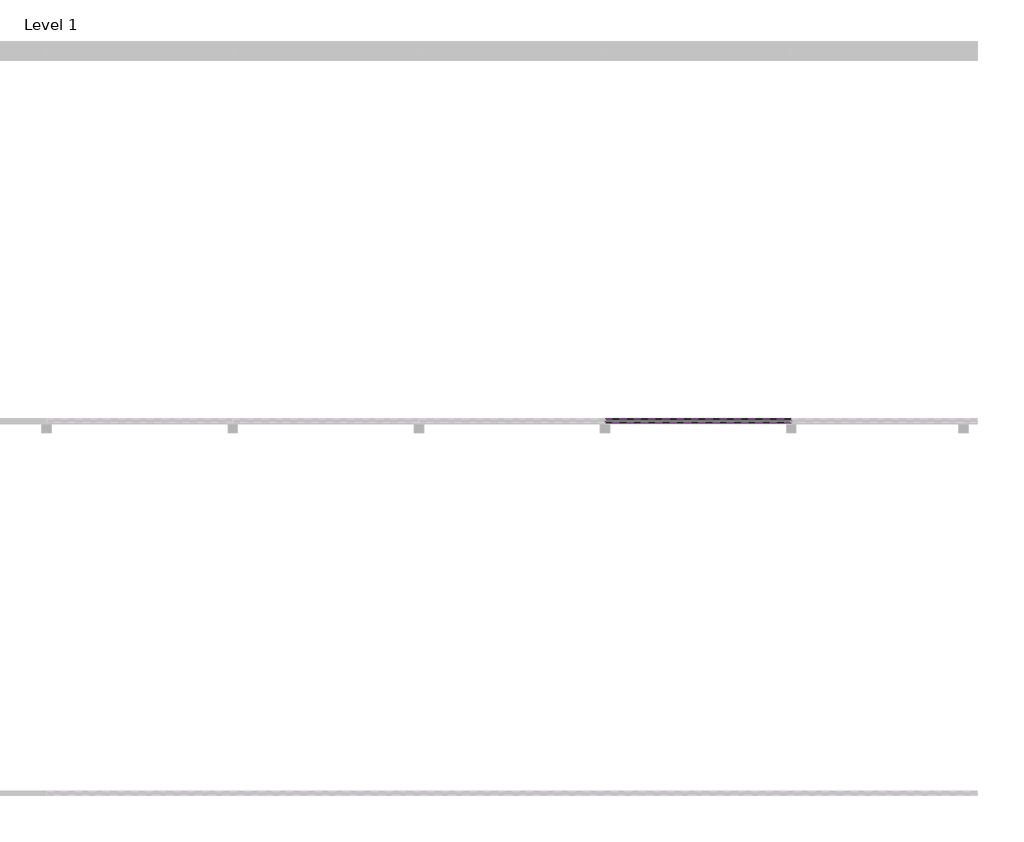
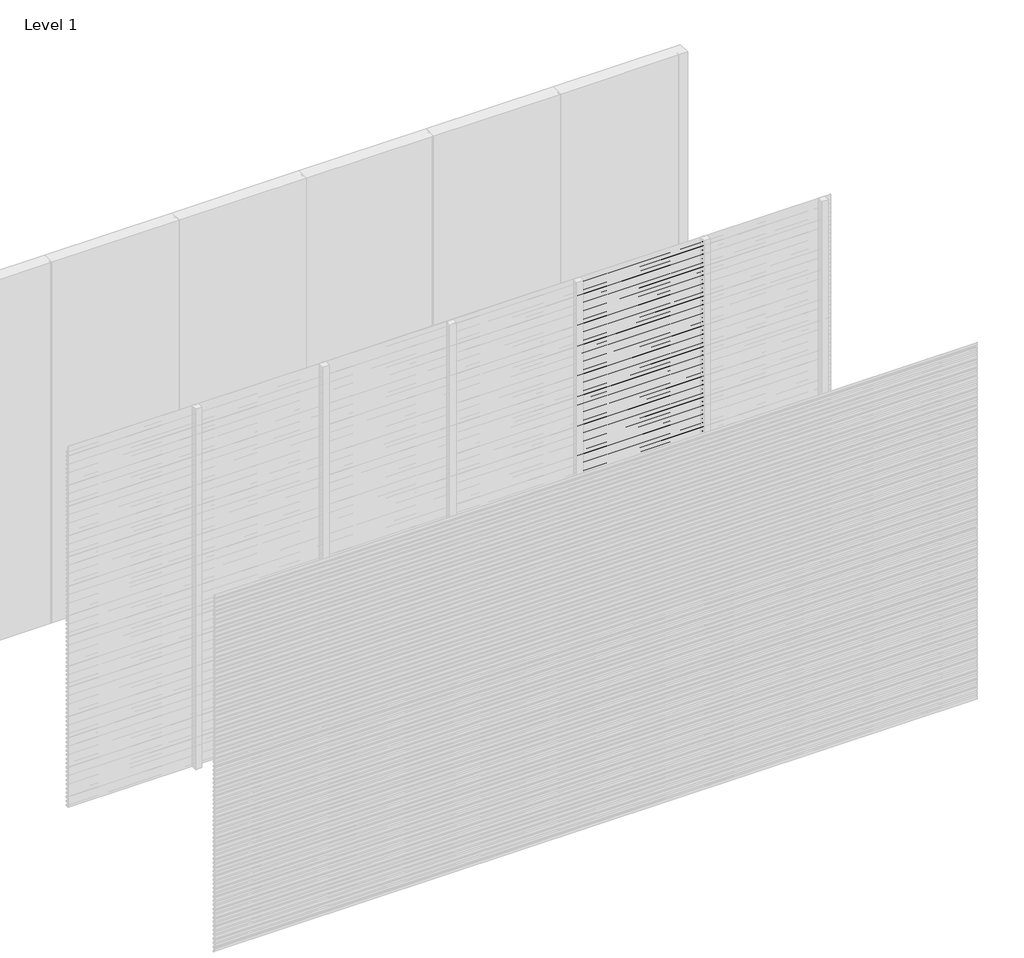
# One storey, part 12 of 25: 98 proxies.
"""IFC4 building model written with IfcOpenShell, lengths in millimetres."""

from ifc_helpers import new_model, si_unit, frame, origin, place, context, project, spatial, polyline, outline, extrude, element, save

model = new_model("IFC4")

# Units and contexts
model_context = context("Model", 3, world=origin())
ifc_project = project(units=[si_unit("LENGTHUNIT", "METRE", prefix="MILLI")], contexts=[model_context])

# Site, building, storey
site = spatial("IfcSite", under=ifc_project)
building = spatial("IfcBuilding", under=site)
storey = spatial("IfcBuildingStorey", under=building, Name="Level 1", Elevation=0.0)

# Proxies
placement = place(None, origin())
element("IfcBuildingElementProxy", 1, Name="Wall Sweeps", at=placement, inside=storey, context=model_context, shape_type="SweptSolid", body=[
    extrude(outline(polyline([(-11995.0, 1120.0), (-11995.0, 1108.942893), (-11976.0, 1093.0), (-11976.0, 1080.0), (-11997.0, 1097.6210923), (-11997.0, 1120.0), (-11995.0, 1120.0)])), frame((3000.0, 0.0, 0.0), z_axis=(1.0, 0.0, 0.0), x_axis=(0.0, 1.0, 0.0)), (0.0, 0.0, 1.0), 1000.0),
])
element("IfcBuildingElementProxy", 2, Name="Wall Sweeps", at=placement, inside=storey, context=model_context, shape_type="SweptSolid", body=[
    extrude(outline(polyline([(-11995.0, 1085.0), (-11995.0, 1073.942893), (-11976.0, 1058.0), (-11976.0, 1045.0), (-11997.0, 1062.6210923), (-11997.0, 1085.0), (-11995.0, 1085.0)])), frame((3000.0, 0.0, 0.0), z_axis=(1.0, 0.0, 0.0), x_axis=(0.0, 1.0, 0.0)), (0.0, 0.0, 1.0), 1000.0),
])
element("IfcBuildingElementProxy", 3, Name="Wall Sweeps", at=placement, inside=storey, context=model_context, shape_type="SweptSolid", body=[
    extrude(outline(polyline([(-11995.0, 1050.0), (-11995.0, 1038.942893), (-11976.0, 1023.0), (-11976.0, 1010.0), (-11997.0, 1027.6210923), (-11997.0, 1050.0), (-11995.0, 1050.0)])), frame((3000.0, 0.0, 0.0), z_axis=(1.0, 0.0, 0.0), x_axis=(0.0, 1.0, 0.0)), (0.0, 0.0, 1.0), 1000.0),
])
element("IfcBuildingElementProxy", 4, Name="Wall Sweeps", at=placement, inside=storey, context=model_context, shape_type="SweptSolid", body=[
    extrude(outline(polyline([(-11995.0, 1015.0), (-11995.0, 1003.942893), (-11976.0, 988.0), (-11976.0, 975.0), (-11997.0, 992.6210923), (-11997.0, 1015.0), (-11995.0, 1015.0)])), frame((3000.0, 0.0, 0.0), z_axis=(1.0, 0.0, 0.0), x_axis=(0.0, 1.0, 0.0)), (0.0, 0.0, 1.0), 1000.0),
])
element("IfcBuildingElementProxy", 5, Name="Wall Sweeps", at=placement, inside=storey, context=model_context, shape_type="SweptSolid", body=[
    extrude(outline(polyline([(-11995.0, 980.0), (-11995.0, 968.942893), (-11976.0, 953.0), (-11976.0, 940.0), (-11997.0, 957.6210923), (-11997.0, 980.0), (-11995.0, 980.0)])), frame((3000.0, 0.0, 0.0), z_axis=(1.0, 0.0, 0.0), x_axis=(0.0, 1.0, 0.0)), (0.0, 0.0, 1.0), 1000.0),
])
element("IfcBuildingElementProxy", 6, Name="Wall Sweeps", at=placement, inside=storey, context=model_context, shape_type="SweptSolid", body=[
    extrude(outline(polyline([(-11995.0, 945.0), (-11995.0, 933.942893), (-11976.0, 918.0), (-11976.0, 905.0), (-11997.0, 922.6210923), (-11997.0, 945.0), (-11995.0, 945.0)])), frame((3000.0, 0.0, 0.0), z_axis=(1.0, 0.0, 0.0), x_axis=(0.0, 1.0, 0.0)), (0.0, 0.0, 1.0), 1000.0),
])
element("IfcBuildingElementProxy", 7, Name="Wall Sweeps", at=placement, inside=storey, context=model_context, shape_type="SweptSolid", body=[
    extrude(outline(polyline([(-11995.0, 910.0), (-11995.0, 898.942893), (-11976.0, 883.0), (-11976.0, 870.0), (-11997.0, 887.6210923), (-11997.0, 910.0), (-11995.0, 910.0)])), frame((3000.0, 0.0, 0.0), z_axis=(1.0, 0.0, 0.0), x_axis=(0.0, 1.0, 0.0)), (0.0, 0.0, 1.0), 1000.0),
])
element("IfcBuildingElementProxy", 8, Name="Wall Sweeps", at=placement, inside=storey, context=model_context, shape_type="SweptSolid", body=[
    extrude(outline(polyline([(-11995.0, 875.0), (-11995.0, 863.942893), (-11976.0, 848.0), (-11976.0, 835.0), (-11997.0, 852.6210923), (-11997.0, 875.0), (-11995.0, 875.0)])), frame((3000.0, 0.0, 0.0), z_axis=(1.0, 0.0, 0.0), x_axis=(0.0, 1.0, 0.0)), (0.0, 0.0, 1.0), 1000.0),
])
element("IfcBuildingElementProxy", 9, Name="Wall Sweeps", at=placement, inside=storey, context=model_context, shape_type="SweptSolid", body=[
    extrude(outline(polyline([(-11995.0, 840.0), (-11995.0, 828.942893), (-11976.0, 813.0), (-11976.0, 800.0), (-11997.0, 817.6210923), (-11997.0, 840.0), (-11995.0, 840.0)])), frame((3000.0, 0.0, 0.0), z_axis=(1.0, 0.0, 0.0), x_axis=(0.0, 1.0, 0.0)), (0.0, 0.0, 1.0), 1000.0),
])
element("IfcBuildingElementProxy", 10, Name="Wall Sweeps", at=placement, inside=storey, context=model_context, shape_type="SweptSolid", body=[
    extrude(outline(polyline([(-11995.0, 805.0), (-11995.0, 793.942893), (-11976.0, 778.0), (-11976.0, 765.0), (-11997.0, 782.6210923), (-11997.0, 805.0), (-11995.0, 805.0)])), frame((3000.0, 0.0, 0.0), z_axis=(1.0, 0.0, 0.0), x_axis=(0.0, 1.0, 0.0)), (0.0, 0.0, 1.0), 1000.0),
])
element("IfcBuildingElementProxy", 11, Name="Wall Sweeps", at=placement, inside=storey, context=model_context, shape_type="SweptSolid", body=[
    extrude(outline(polyline([(-11995.0, 770.0), (-11995.0, 758.942893), (-11976.0, 743.0), (-11976.0, 730.0), (-11997.0, 747.6210923), (-11997.0, 770.0), (-11995.0, 770.0)])), frame((3000.0, 0.0, 0.0), z_axis=(1.0, 0.0, 0.0), x_axis=(0.0, 1.0, 0.0)), (0.0, 0.0, 1.0), 1000.0),
])
element("IfcBuildingElementProxy", 12, Name="Wall Sweeps", at=placement, inside=storey, context=model_context, shape_type="SweptSolid", body=[
    extrude(outline(polyline([(-11995.0, 735.0), (-11995.0, 723.942893), (-11976.0, 708.0), (-11976.0, 695.0), (-11997.0, 712.6210923), (-11997.0, 735.0), (-11995.0, 735.0)])), frame((3000.0, 0.0, 0.0), z_axis=(1.0, 0.0, 0.0), x_axis=(0.0, 1.0, 0.0)), (0.0, 0.0, 1.0), 1000.0),
])
element("IfcBuildingElementProxy", 13, Name="Wall Sweeps", at=placement, inside=storey, context=model_context, shape_type="SweptSolid", body=[
    extrude(outline(polyline([(-11995.0, 700.0), (-11995.0, 688.942893), (-11976.0, 673.0), (-11976.0, 660.0), (-11997.0, 677.6210923), (-11997.0, 700.0), (-11995.0, 700.0)])), frame((3000.0, 0.0, 0.0), z_axis=(1.0, 0.0, 0.0), x_axis=(0.0, 1.0, 0.0)), (0.0, 0.0, 1.0), 1000.0),
])
element("IfcBuildingElementProxy", 14, Name="Wall Sweeps", at=placement, inside=storey, context=model_context, shape_type="SweptSolid", body=[
    extrude(outline(polyline([(-11995.0, 665.0), (-11995.0, 653.942893), (-11976.0, 638.0), (-11976.0, 625.0), (-11997.0, 642.6210923), (-11997.0, 665.0), (-11995.0, 665.0)])), frame((3000.0, 0.0, 0.0), z_axis=(1.0, 0.0, 0.0), x_axis=(0.0, 1.0, 0.0)), (0.0, 0.0, 1.0), 1000.0),
])
element("IfcBuildingElementProxy", 15, Name="Wall Sweeps", at=placement, inside=storey, context=model_context, shape_type="SweptSolid", body=[
    extrude(outline(polyline([(-11995.0, 630.0), (-11995.0, 618.942893), (-11976.0, 603.0), (-11976.0, 590.0), (-11997.0, 607.6210923), (-11997.0, 630.0), (-11995.0, 630.0)])), frame((3000.0, 0.0, 0.0), z_axis=(1.0, 0.0, 0.0), x_axis=(0.0, 1.0, 0.0)), (0.0, 0.0, 1.0), 1000.0),
])
element("IfcBuildingElementProxy", 16, Name="Wall Sweeps", at=placement, inside=storey, context=model_context, shape_type="SweptSolid", body=[
    extrude(outline(polyline([(-11995.0, 595.0), (-11995.0, 583.942893), (-11976.0, 568.0), (-11976.0, 555.0), (-11997.0, 572.6210923), (-11997.0, 595.0), (-11995.0, 595.0)])), frame((3000.0, 0.0, 0.0), z_axis=(1.0, 0.0, 0.0), x_axis=(0.0, 1.0, 0.0)), (0.0, 0.0, 1.0), 1000.0),
])
element("IfcBuildingElementProxy", 17, Name="Wall Sweeps", at=placement, inside=storey, context=model_context, shape_type="SweptSolid", body=[
    extrude(outline(polyline([(-11995.0, 560.0), (-11995.0, 548.942893), (-11976.0, 533.0), (-11976.0, 520.0), (-11997.0, 537.6210923), (-11997.0, 560.0), (-11995.0, 560.0)])), frame((3000.0, 0.0, 0.0), z_axis=(1.0, 0.0, 0.0), x_axis=(0.0, 1.0, 0.0)), (0.0, 0.0, 1.0), 1000.0),
])
element("IfcBuildingElementProxy", 18, Name="Wall Sweeps", at=placement, inside=storey, context=model_context, shape_type="SweptSolid", body=[
    extrude(outline(polyline([(-11995.0, 525.0), (-11995.0, 513.942893), (-11976.0, 498.0), (-11976.0, 485.0), (-11997.0, 502.6210923), (-11997.0, 525.0), (-11995.0, 525.0)])), frame((3000.0, 0.0, 0.0), z_axis=(1.0, 0.0, 0.0), x_axis=(0.0, 1.0, 0.0)), (0.0, 0.0, 1.0), 1000.0),
])
element("IfcBuildingElementProxy", 19, Name="Wall Sweeps", at=placement, inside=storey, context=model_context, shape_type="SweptSolid", body=[
    extrude(outline(polyline([(-11995.0, 490.0), (-11995.0, 478.942893), (-11976.0, 463.0), (-11976.0, 450.0), (-11997.0, 467.6210923), (-11997.0, 490.0), (-11995.0, 490.0)])), frame((3000.0, 0.0, 0.0), z_axis=(1.0, 0.0, 0.0), x_axis=(0.0, 1.0, 0.0)), (0.0, 0.0, 1.0), 1000.0),
])
element("IfcBuildingElementProxy", 20, Name="Wall Sweeps", at=placement, inside=storey, context=model_context, shape_type="SweptSolid", body=[
    extrude(outline(polyline([(-11995.0, 455.0), (-11995.0, 443.942893), (-11976.0, 428.0), (-11976.0, 415.0), (-11997.0, 432.6210923), (-11997.0, 455.0), (-11995.0, 455.0)])), frame((3000.0, 0.0, 0.0), z_axis=(1.0, 0.0, 0.0), x_axis=(0.0, 1.0, 0.0)), (0.0, 0.0, 1.0), 1000.0),
])
element("IfcBuildingElementProxy", 21, Name="Wall Sweeps", at=placement, inside=storey, context=model_context, shape_type="SweptSolid", body=[
    extrude(outline(polyline([(-11995.0, 420.0), (-11995.0, 408.942893), (-11976.0, 393.0), (-11976.0, 380.0), (-11997.0, 397.6210923), (-11997.0, 420.0), (-11995.0, 420.0)])), frame((3000.0, 0.0, 0.0), z_axis=(1.0, 0.0, 0.0), x_axis=(0.0, 1.0, 0.0)), (0.0, 0.0, 1.0), 1000.0),
])
element("IfcBuildingElementProxy", 22, Name="Wall Sweeps", at=placement, inside=storey, context=model_context, shape_type="SweptSolid", body=[
    extrude(outline(polyline([(-11995.0, 385.0), (-11995.0, 373.942893), (-11976.0, 358.0), (-11976.0, 345.0), (-11997.0, 362.6210923), (-11997.0, 385.0), (-11995.0, 385.0)])), frame((3000.0, 0.0, 0.0), z_axis=(1.0, 0.0, 0.0), x_axis=(0.0, 1.0, 0.0)), (0.0, 0.0, 1.0), 1000.0),
])
element("IfcBuildingElementProxy", 23, Name="Wall Sweeps", at=placement, inside=storey, context=model_context, shape_type="SweptSolid", body=[
    extrude(outline(polyline([(-11995.0, 350.0), (-11995.0, 338.942893), (-11976.0, 323.0), (-11976.0, 310.0), (-11997.0, 327.6210923), (-11997.0, 350.0), (-11995.0, 350.0)])), frame((3000.0, 0.0, 0.0), z_axis=(1.0, 0.0, 0.0), x_axis=(0.0, 1.0, 0.0)), (0.0, 0.0, 1.0), 1000.0),
])
element("IfcBuildingElementProxy", 24, Name="Wall Sweeps", at=placement, inside=storey, context=model_context, shape_type="SweptSolid", body=[
    extrude(outline(polyline([(-11995.0, 315.0), (-11995.0, 303.942893), (-11976.0, 288.0), (-11976.0, 275.0), (-11997.0, 292.6210923), (-11997.0, 315.0), (-11995.0, 315.0)])), frame((3000.0, 0.0, 0.0), z_axis=(1.0, 0.0, 0.0), x_axis=(0.0, 1.0, 0.0)), (0.0, 0.0, 1.0), 1000.0),
])
element("IfcBuildingElementProxy", 25, Name="Wall Sweeps", at=placement, inside=storey, context=model_context, shape_type="SweptSolid", body=[
    extrude(outline(polyline([(-11995.0, 280.0), (-11995.0, 268.942893), (-11976.0, 253.0), (-11976.0, 240.0), (-11997.0, 257.6210923), (-11997.0, 280.0), (-11995.0, 280.0)])), frame((3000.0, 0.0, 0.0), z_axis=(1.0, 0.0, 0.0), x_axis=(0.0, 1.0, 0.0)), (0.0, 0.0, 1.0), 1000.0),
])
element("IfcBuildingElementProxy", 26, Name="Wall Sweeps", at=placement, inside=storey, context=model_context, shape_type="SweptSolid", body=[
    extrude(outline(polyline([(-11995.0, 245.0), (-11995.0, 233.942893), (-11976.0, 218.0), (-11976.0, 205.0), (-11997.0, 222.6210923), (-11997.0, 245.0), (-11995.0, 245.0)])), frame((3000.0, 0.0, 0.0), z_axis=(1.0, 0.0, 0.0), x_axis=(0.0, 1.0, 0.0)), (0.0, 0.0, 1.0), 1000.0),
])
element("IfcBuildingElementProxy", 27, Name="Wall Sweeps", at=placement, inside=storey, context=model_context, shape_type="SweptSolid", body=[
    extrude(outline(polyline([(-11995.0, 210.0), (-11995.0, 198.942893), (-11976.0, 183.0), (-11976.0, 170.0), (-11997.0, 187.6210923), (-11997.0, 210.0), (-11995.0, 210.0)])), frame((3000.0, 0.0, 0.0), z_axis=(1.0, 0.0, 0.0), x_axis=(0.0, 1.0, 0.0)), (0.0, 0.0, 1.0), 1000.0),
])
element("IfcBuildingElementProxy", 28, Name="Wall Sweeps", at=placement, inside=storey, context=model_context, shape_type="SweptSolid", body=[
    extrude(outline(polyline([(-11995.0, 175.0), (-11995.0, 163.942893), (-11976.0, 148.0), (-11976.0, 135.0), (-11997.0, 152.6210923), (-11997.0, 175.0), (-11995.0, 175.0)])), frame((3000.0, 0.0, 0.0), z_axis=(1.0, 0.0, 0.0), x_axis=(0.0, 1.0, 0.0)), (0.0, 0.0, 1.0), 1000.0),
])
element("IfcBuildingElementProxy", 29, Name="Wall Sweeps", at=placement, inside=storey, context=model_context, shape_type="SweptSolid", body=[
    extrude(outline(polyline([(-11995.0, 140.0), (-11995.0, 128.942893), (-11976.0, 113.0), (-11976.0, 100.0), (-11997.0, 117.6210923), (-11997.0, 140.0), (-11995.0, 140.0)])), frame((3000.0, 0.0, 0.0), z_axis=(1.0, 0.0, 0.0), x_axis=(0.0, 1.0, 0.0)), (0.0, 0.0, 1.0), 1000.0),
])
element("IfcBuildingElementProxy", 30, Name="Wall Sweeps", at=placement, inside=storey, context=model_context, shape_type="SweptSolid", body=[
    extrude(outline(polyline([(-11995.0, 105.0), (-11995.0, 93.942893), (-11976.0, 78.0), (-11976.0, 65.0), (-11997.0, 82.6210923), (-11997.0, 105.0), (-11995.0, 105.0)])), frame((3000.0, 0.0, 0.0), z_axis=(1.0, 0.0, 0.0), x_axis=(0.0, 1.0, 0.0)), (0.0, 0.0, 1.0), 1000.0),
])
element("IfcBuildingElementProxy", 31, Name="Wall Sweeps", at=placement, inside=storey, context=model_context, shape_type="SweptSolid", body=[
    extrude(outline(polyline([(-11995.0, 70.0), (-11995.0, 58.942893), (-11976.0, 43.0), (-11976.0, 30.0), (-11997.0, 47.6210923), (-11997.0, 70.0), (-11995.0, 70.0)])), frame((3000.0, 0.0, 0.0), z_axis=(1.0, 0.0, 0.0), x_axis=(0.0, 1.0, 0.0)), (0.0, 0.0, 1.0), 1000.0),
])
element("IfcBuildingElementProxy", 32, Name="Wall Sweeps", at=placement, inside=storey, context=model_context, shape_type="SweptSolid", body=[
    extrude(outline(polyline([(-11995.0, 35.0), (-11995.0, 23.942893), (-11976.0, 8.0), (-11976.0, -5.0), (-11997.0, 12.6210923), (-11997.0, 35.0), (-11995.0, 35.0)])), frame((3000.0, 0.0, 0.0), z_axis=(1.0, 0.0, 0.0), x_axis=(0.0, 1.0, 0.0)), (0.0, 0.0, 1.0), 1000.0),
])
element("IfcBuildingElementProxy", 33, Name="Wall Sweeps", at=placement, inside=storey, context=model_context, shape_type="SweptSolid", body=[
    extrude(outline(polyline([(-11995.0, 2975.0), (-11995.0, 2963.942893), (-11976.0, 2948.0), (-11976.0, 2935.0), (-11997.0, 2952.6210923), (-11997.0, 2975.0), (-11995.0, 2975.0)])), frame((4000.0, 0.0, 0.0), z_axis=(1.0, 0.0, 0.0), x_axis=(0.0, 1.0, 0.0)), (0.0, 0.0, 1.0), 1000.0),
])
element("IfcBuildingElementProxy", 34, Name="Wall Sweeps", at=placement, inside=storey, context=model_context, shape_type="SweptSolid", body=[
    extrude(outline(polyline([(-11995.0, 2940.0), (-11995.0, 2928.942893), (-11976.0, 2913.0), (-11976.0, 2900.0), (-11997.0, 2917.6210923), (-11997.0, 2940.0), (-11995.0, 2940.0)])), frame((4000.0, 0.0, 0.0), z_axis=(1.0, 0.0, 0.0), x_axis=(0.0, 1.0, 0.0)), (0.0, 0.0, 1.0), 1000.0),
])
element("IfcBuildingElementProxy", 35, Name="Wall Sweeps", at=placement, inside=storey, context=model_context, shape_type="SweptSolid", body=[
    extrude(outline(polyline([(-11995.0, 2905.0), (-11995.0, 2893.942893), (-11976.0, 2878.0), (-11976.0, 2865.0), (-11997.0, 2882.6210923), (-11997.0, 2905.0), (-11995.0, 2905.0)])), frame((4000.0, 0.0, 0.0), z_axis=(1.0, 0.0, 0.0), x_axis=(0.0, 1.0, 0.0)), (0.0, 0.0, 1.0), 1000.0),
])
element("IfcBuildingElementProxy", 36, Name="Wall Sweeps", at=placement, inside=storey, context=model_context, shape_type="SweptSolid", body=[
    extrude(outline(polyline([(-11995.0, 2870.0), (-11995.0, 2858.942893), (-11976.0, 2843.0), (-11976.0, 2830.0), (-11997.0, 2847.6210923), (-11997.0, 2870.0), (-11995.0, 2870.0)])), frame((4000.0, 0.0, 0.0), z_axis=(1.0, 0.0, 0.0), x_axis=(0.0, 1.0, 0.0)), (0.0, 0.0, 1.0), 1000.0),
])
element("IfcBuildingElementProxy", 37, Name="Wall Sweeps", at=placement, inside=storey, context=model_context, shape_type="SweptSolid", body=[
    extrude(outline(polyline([(-11995.0, 2835.0), (-11995.0, 2823.942893), (-11976.0, 2808.0), (-11976.0, 2795.0), (-11997.0, 2812.6210923), (-11997.0, 2835.0), (-11995.0, 2835.0)])), frame((4000.0, 0.0, 0.0), z_axis=(1.0, 0.0, 0.0), x_axis=(0.0, 1.0, 0.0)), (0.0, 0.0, 1.0), 1000.0),
])
element("IfcBuildingElementProxy", 38, Name="Wall Sweeps", at=placement, inside=storey, context=model_context, shape_type="SweptSolid", body=[
    extrude(outline(polyline([(-11995.0, 2800.0), (-11995.0, 2788.942893), (-11976.0, 2773.0), (-11976.0, 2760.0), (-11997.0, 2777.6210923), (-11997.0, 2800.0), (-11995.0, 2800.0)])), frame((4000.0, 0.0, 0.0), z_axis=(1.0, 0.0, 0.0), x_axis=(0.0, 1.0, 0.0)), (0.0, 0.0, 1.0), 1000.0),
])
element("IfcBuildingElementProxy", 39, Name="Wall Sweeps", at=placement, inside=storey, context=model_context, shape_type="SweptSolid", body=[
    extrude(outline(polyline([(-11995.0, 2765.0), (-11995.0, 2753.942893), (-11976.0, 2738.0), (-11976.0, 2725.0), (-11997.0, 2742.6210923), (-11997.0, 2765.0), (-11995.0, 2765.0)])), frame((4000.0, 0.0, 0.0), z_axis=(1.0, 0.0, 0.0), x_axis=(0.0, 1.0, 0.0)), (0.0, 0.0, 1.0), 1000.0),
])
element("IfcBuildingElementProxy", 40, Name="Wall Sweeps", at=placement, inside=storey, context=model_context, shape_type="SweptSolid", body=[
    extrude(outline(polyline([(-11995.0, 2730.0), (-11995.0, 2718.942893), (-11976.0, 2703.0), (-11976.0, 2690.0), (-11997.0, 2707.6210923), (-11997.0, 2730.0), (-11995.0, 2730.0)])), frame((4000.0, 0.0, 0.0), z_axis=(1.0, 0.0, 0.0), x_axis=(0.0, 1.0, 0.0)), (0.0, 0.0, 1.0), 1000.0),
])
element("IfcBuildingElementProxy", 41, Name="Wall Sweeps", at=placement, inside=storey, context=model_context, shape_type="SweptSolid", body=[
    extrude(outline(polyline([(-11995.0, 2695.0), (-11995.0, 2683.942893), (-11976.0, 2668.0), (-11976.0, 2655.0), (-11997.0, 2672.6210923), (-11997.0, 2695.0), (-11995.0, 2695.0)])), frame((4000.0, 0.0, 0.0), z_axis=(1.0, 0.0, 0.0), x_axis=(0.0, 1.0, 0.0)), (0.0, 0.0, 1.0), 1000.0),
])
element("IfcBuildingElementProxy", 42, Name="Wall Sweeps", at=placement, inside=storey, context=model_context, shape_type="SweptSolid", body=[
    extrude(outline(polyline([(-11995.0, 2660.0), (-11995.0, 2648.942893), (-11976.0, 2633.0), (-11976.0, 2620.0), (-11997.0, 2637.6210923), (-11997.0, 2660.0), (-11995.0, 2660.0)])), frame((4000.0, 0.0, 0.0), z_axis=(1.0, 0.0, 0.0), x_axis=(0.0, 1.0, 0.0)), (0.0, 0.0, 1.0), 1000.0),
])
element("IfcBuildingElementProxy", 43, Name="Wall Sweeps", at=placement, inside=storey, context=model_context, shape_type="SweptSolid", body=[
    extrude(outline(polyline([(-11995.0, 2625.0), (-11995.0, 2613.942893), (-11976.0, 2598.0), (-11976.0, 2585.0), (-11997.0, 2602.6210923), (-11997.0, 2625.0), (-11995.0, 2625.0)])), frame((4000.0, 0.0, 0.0), z_axis=(1.0, 0.0, 0.0), x_axis=(0.0, 1.0, 0.0)), (0.0, 0.0, 1.0), 1000.0),
])
element("IfcBuildingElementProxy", 44, Name="Wall Sweeps", at=placement, inside=storey, context=model_context, shape_type="SweptSolid", body=[
    extrude(outline(polyline([(-11995.0, 2590.0), (-11995.0, 2578.942893), (-11976.0, 2563.0), (-11976.0, 2550.0), (-11997.0, 2567.6210923), (-11997.0, 2590.0), (-11995.0, 2590.0)])), frame((4000.0, 0.0, 0.0), z_axis=(1.0, 0.0, 0.0), x_axis=(0.0, 1.0, 0.0)), (0.0, 0.0, 1.0), 1000.0),
])
element("IfcBuildingElementProxy", 45, Name="Wall Sweeps", at=placement, inside=storey, context=model_context, shape_type="SweptSolid", body=[
    extrude(outline(polyline([(-11995.0, 2555.0), (-11995.0, 2543.942893), (-11976.0, 2528.0), (-11976.0, 2515.0), (-11997.0, 2532.6210923), (-11997.0, 2555.0), (-11995.0, 2555.0)])), frame((4000.0, 0.0, 0.0), z_axis=(1.0, 0.0, 0.0), x_axis=(0.0, 1.0, 0.0)), (0.0, 0.0, 1.0), 1000.0),
])
element("IfcBuildingElementProxy", 46, Name="Wall Sweeps", at=placement, inside=storey, context=model_context, shape_type="SweptSolid", body=[
    extrude(outline(polyline([(-11995.0, 2520.0), (-11995.0, 2508.942893), (-11976.0, 2493.0), (-11976.0, 2480.0), (-11997.0, 2497.6210923), (-11997.0, 2520.0), (-11995.0, 2520.0)])), frame((4000.0, 0.0, 0.0), z_axis=(1.0, 0.0, 0.0), x_axis=(0.0, 1.0, 0.0)), (0.0, 0.0, 1.0), 1000.0),
])
element("IfcBuildingElementProxy", 47, Name="Wall Sweeps", at=placement, inside=storey, context=model_context, shape_type="SweptSolid", body=[
    extrude(outline(polyline([(-11995.0, 2485.0), (-11995.0, 2473.942893), (-11976.0, 2458.0), (-11976.0, 2445.0), (-11997.0, 2462.6210923), (-11997.0, 2485.0), (-11995.0, 2485.0)])), frame((4000.0, 0.0, 0.0), z_axis=(1.0, 0.0, 0.0), x_axis=(0.0, 1.0, 0.0)), (0.0, 0.0, 1.0), 1000.0),
])
element("IfcBuildingElementProxy", 48, Name="Wall Sweeps", at=placement, inside=storey, context=model_context, shape_type="SweptSolid", body=[
    extrude(outline(polyline([(-11995.0, 2450.0), (-11995.0, 2438.942893), (-11976.0, 2423.0), (-11976.0, 2410.0), (-11997.0, 2427.6210923), (-11997.0, 2450.0), (-11995.0, 2450.0)])), frame((4000.0, 0.0, 0.0), z_axis=(1.0, 0.0, 0.0), x_axis=(0.0, 1.0, 0.0)), (0.0, 0.0, 1.0), 1000.0),
])
element("IfcBuildingElementProxy", 49, Name="Wall Sweeps", at=placement, inside=storey, context=model_context, shape_type="SweptSolid", body=[
    extrude(outline(polyline([(-11995.0, 2415.0), (-11995.0, 2403.942893), (-11976.0, 2388.0), (-11976.0, 2375.0), (-11997.0, 2392.6210923), (-11997.0, 2415.0), (-11995.0, 2415.0)])), frame((4000.0, 0.0, 0.0), z_axis=(1.0, 0.0, 0.0), x_axis=(0.0, 1.0, 0.0)), (0.0, 0.0, 1.0), 1000.0),
])
element("IfcBuildingElementProxy", 50, Name="Wall Sweeps", at=placement, inside=storey, context=model_context, shape_type="SweptSolid", body=[
    extrude(outline(polyline([(-11995.0, 2380.0), (-11995.0, 2368.942893), (-11976.0, 2353.0), (-11976.0, 2340.0), (-11997.0, 2357.6210923), (-11997.0, 2380.0), (-11995.0, 2380.0)])), frame((4000.0, 0.0, 0.0), z_axis=(1.0, 0.0, 0.0), x_axis=(0.0, 1.0, 0.0)), (0.0, 0.0, 1.0), 1000.0),
])
element("IfcBuildingElementProxy", 51, Name="Wall Sweeps", at=placement, inside=storey, context=model_context, shape_type="SweptSolid", body=[
    extrude(outline(polyline([(-11995.0, 2345.0), (-11995.0, 2333.942893), (-11976.0, 2318.0), (-11976.0, 2305.0), (-11997.0, 2322.6210923), (-11997.0, 2345.0), (-11995.0, 2345.0)])), frame((4000.0, 0.0, 0.0), z_axis=(1.0, 0.0, 0.0), x_axis=(0.0, 1.0, 0.0)), (0.0, 0.0, 1.0), 1000.0),
])
element("IfcBuildingElementProxy", 52, Name="Wall Sweeps", at=placement, inside=storey, context=model_context, shape_type="SweptSolid", body=[
    extrude(outline(polyline([(-11995.0, 2310.0), (-11995.0, 2298.942893), (-11976.0, 2283.0), (-11976.0, 2270.0), (-11997.0, 2287.6210923), (-11997.0, 2310.0), (-11995.0, 2310.0)])), frame((4000.0, 0.0, 0.0), z_axis=(1.0, 0.0, 0.0), x_axis=(0.0, 1.0, 0.0)), (0.0, 0.0, 1.0), 1000.0),
])
element("IfcBuildingElementProxy", 53, Name="Wall Sweeps", at=placement, inside=storey, context=model_context, shape_type="SweptSolid", body=[
    extrude(outline(polyline([(-11995.0, 2275.0), (-11995.0, 2263.942893), (-11976.0, 2248.0), (-11976.0, 2235.0), (-11997.0, 2252.6210923), (-11997.0, 2275.0), (-11995.0, 2275.0)])), frame((4000.0, 0.0, 0.0), z_axis=(1.0, 0.0, 0.0), x_axis=(0.0, 1.0, 0.0)), (0.0, 0.0, 1.0), 1000.0),
])
element("IfcBuildingElementProxy", 54, Name="Wall Sweeps", at=placement, inside=storey, context=model_context, shape_type="SweptSolid", body=[
    extrude(outline(polyline([(-11995.0, 2240.0), (-11995.0, 2228.942893), (-11976.0, 2213.0), (-11976.0, 2200.0), (-11997.0, 2217.6210923), (-11997.0, 2240.0), (-11995.0, 2240.0)])), frame((4000.0, 0.0, 0.0), z_axis=(1.0, 0.0, 0.0), x_axis=(0.0, 1.0, 0.0)), (0.0, 0.0, 1.0), 1000.0),
])
element("IfcBuildingElementProxy", 55, Name="Wall Sweeps", at=placement, inside=storey, context=model_context, shape_type="SweptSolid", body=[
    extrude(outline(polyline([(-11995.0, 2205.0), (-11995.0, 2193.942893), (-11976.0, 2178.0), (-11976.0, 2165.0), (-11997.0, 2182.6210923), (-11997.0, 2205.0), (-11995.0, 2205.0)])), frame((4000.0, 0.0, 0.0), z_axis=(1.0, 0.0, 0.0), x_axis=(0.0, 1.0, 0.0)), (0.0, 0.0, 1.0), 1000.0),
])
element("IfcBuildingElementProxy", 56, Name="Wall Sweeps", at=placement, inside=storey, context=model_context, shape_type="SweptSolid", body=[
    extrude(outline(polyline([(-11995.0, 2170.0), (-11995.0, 2158.942893), (-11976.0, 2143.0), (-11976.0, 2130.0), (-11997.0, 2147.6210923), (-11997.0, 2170.0), (-11995.0, 2170.0)])), frame((4000.0, 0.0, 0.0), z_axis=(1.0, 0.0, 0.0), x_axis=(0.0, 1.0, 0.0)), (0.0, 0.0, 1.0), 1000.0),
])
element("IfcBuildingElementProxy", 57, Name="Wall Sweeps", at=placement, inside=storey, context=model_context, shape_type="SweptSolid", body=[
    extrude(outline(polyline([(-11995.0, 2135.0), (-11995.0, 2123.942893), (-11976.0, 2108.0), (-11976.0, 2095.0), (-11997.0, 2112.6210923), (-11997.0, 2135.0), (-11995.0, 2135.0)])), frame((4000.0, 0.0, 0.0), z_axis=(1.0, 0.0, 0.0), x_axis=(0.0, 1.0, 0.0)), (0.0, 0.0, 1.0), 1000.0),
])
element("IfcBuildingElementProxy", 58, Name="Wall Sweeps", at=placement, inside=storey, context=model_context, shape_type="SweptSolid", body=[
    extrude(outline(polyline([(-11995.0, 2100.0), (-11995.0, 2088.942893), (-11976.0, 2073.0), (-11976.0, 2060.0), (-11997.0, 2077.6210923), (-11997.0, 2100.0), (-11995.0, 2100.0)])), frame((4000.0, 0.0, 0.0), z_axis=(1.0, 0.0, 0.0), x_axis=(0.0, 1.0, 0.0)), (0.0, 0.0, 1.0), 1000.0),
])
element("IfcBuildingElementProxy", 59, Name="Wall Sweeps", at=placement, inside=storey, context=model_context, shape_type="SweptSolid", body=[
    extrude(outline(polyline([(-11995.0, 2065.0), (-11995.0, 2053.942893), (-11976.0, 2038.0), (-11976.0, 2025.0), (-11997.0, 2042.6210923), (-11997.0, 2065.0), (-11995.0, 2065.0)])), frame((4000.0, 0.0, 0.0), z_axis=(1.0, 0.0, 0.0), x_axis=(0.0, 1.0, 0.0)), (0.0, 0.0, 1.0), 1000.0),
])
element("IfcBuildingElementProxy", 60, Name="Wall Sweeps", at=placement, inside=storey, context=model_context, shape_type="SweptSolid", body=[
    extrude(outline(polyline([(-11995.0, 2030.0), (-11995.0, 2018.942893), (-11976.0, 2003.0), (-11976.0, 1990.0), (-11997.0, 2007.6210923), (-11997.0, 2030.0), (-11995.0, 2030.0)])), frame((4000.0, 0.0, 0.0), z_axis=(1.0, 0.0, 0.0), x_axis=(0.0, 1.0, 0.0)), (0.0, 0.0, 1.0), 1000.0),
])
element("IfcBuildingElementProxy", 61, Name="Wall Sweeps", at=placement, inside=storey, context=model_context, shape_type="SweptSolid", body=[
    extrude(outline(polyline([(-11995.0, 1995.0), (-11995.0, 1983.942893), (-11976.0, 1968.0), (-11976.0, 1955.0), (-11997.0, 1972.6210923), (-11997.0, 1995.0), (-11995.0, 1995.0)])), frame((4000.0, 0.0, 0.0), z_axis=(1.0, 0.0, 0.0), x_axis=(0.0, 1.0, 0.0)), (0.0, 0.0, 1.0), 1000.0),
])
element("IfcBuildingElementProxy", 62, Name="Wall Sweeps", at=placement, inside=storey, context=model_context, shape_type="SweptSolid", body=[
    extrude(outline(polyline([(-11995.0, 1960.0), (-11995.0, 1948.942893), (-11976.0, 1933.0), (-11976.0, 1920.0), (-11997.0, 1937.6210923), (-11997.0, 1960.0), (-11995.0, 1960.0)])), frame((4000.0, 0.0, 0.0), z_axis=(1.0, 0.0, 0.0), x_axis=(0.0, 1.0, 0.0)), (0.0, 0.0, 1.0), 1000.0),
])
element("IfcBuildingElementProxy", 63, Name="Wall Sweeps", at=placement, inside=storey, context=model_context, shape_type="SweptSolid", body=[
    extrude(outline(polyline([(-11995.0, 1925.0), (-11995.0, 1913.942893), (-11976.0, 1898.0), (-11976.0, 1885.0), (-11997.0, 1902.6210923), (-11997.0, 1925.0), (-11995.0, 1925.0)])), frame((4000.0, 0.0, 0.0), z_axis=(1.0, 0.0, 0.0), x_axis=(0.0, 1.0, 0.0)), (0.0, 0.0, 1.0), 1000.0),
])
element("IfcBuildingElementProxy", 64, Name="Wall Sweeps", at=placement, inside=storey, context=model_context, shape_type="SweptSolid", body=[
    extrude(outline(polyline([(-11995.0, 1890.0), (-11995.0, 1878.942893), (-11976.0, 1863.0), (-11976.0, 1850.0), (-11997.0, 1867.6210923), (-11997.0, 1890.0), (-11995.0, 1890.0)])), frame((4000.0, 0.0, 0.0), z_axis=(1.0, 0.0, 0.0), x_axis=(0.0, 1.0, 0.0)), (0.0, 0.0, 1.0), 1000.0),
])
element("IfcBuildingElementProxy", 65, Name="Wall Sweeps", at=placement, inside=storey, context=model_context, shape_type="SweptSolid", body=[
    extrude(outline(polyline([(-11995.0, 1855.0), (-11995.0, 1843.942893), (-11976.0, 1828.0), (-11976.0, 1815.0), (-11997.0, 1832.6210923), (-11997.0, 1855.0), (-11995.0, 1855.0)])), frame((4000.0, 0.0, 0.0), z_axis=(1.0, 0.0, 0.0), x_axis=(0.0, 1.0, 0.0)), (0.0, 0.0, 1.0), 1000.0),
])
element("IfcBuildingElementProxy", 66, Name="Wall Sweeps", at=placement, inside=storey, context=model_context, shape_type="SweptSolid", body=[
    extrude(outline(polyline([(-11995.0, 1820.0), (-11995.0, 1808.942893), (-11976.0, 1793.0), (-11976.0, 1780.0), (-11997.0, 1797.6210923), (-11997.0, 1820.0), (-11995.0, 1820.0)])), frame((4000.0, 0.0, 0.0), z_axis=(1.0, 0.0, 0.0), x_axis=(0.0, 1.0, 0.0)), (0.0, 0.0, 1.0), 1000.0),
])
element("IfcBuildingElementProxy", 67, Name="Wall Sweeps", at=placement, inside=storey, context=model_context, shape_type="SweptSolid", body=[
    extrude(outline(polyline([(-11995.0, 1785.0), (-11995.0, 1773.942893), (-11976.0, 1758.0), (-11976.0, 1745.0), (-11997.0, 1762.6210923), (-11997.0, 1785.0), (-11995.0, 1785.0)])), frame((4000.0, 0.0, 0.0), z_axis=(1.0, 0.0, 0.0), x_axis=(0.0, 1.0, 0.0)), (0.0, 0.0, 1.0), 1000.0),
])
element("IfcBuildingElementProxy", 68, Name="Wall Sweeps", at=placement, inside=storey, context=model_context, shape_type="SweptSolid", body=[
    extrude(outline(polyline([(-11995.0, 1750.0), (-11995.0, 1738.942893), (-11976.0, 1723.0), (-11976.0, 1710.0), (-11997.0, 1727.6210923), (-11997.0, 1750.0), (-11995.0, 1750.0)])), frame((4000.0, 0.0, 0.0), z_axis=(1.0, 0.0, 0.0), x_axis=(0.0, 1.0, 0.0)), (0.0, 0.0, 1.0), 1000.0),
])
element("IfcBuildingElementProxy", 69, Name="Wall Sweeps", at=placement, inside=storey, context=model_context, shape_type="SweptSolid", body=[
    extrude(outline(polyline([(-11995.0, 1715.0), (-11995.0, 1703.942893), (-11976.0, 1688.0), (-11976.0, 1675.0), (-11997.0, 1692.6210923), (-11997.0, 1715.0), (-11995.0, 1715.0)])), frame((4000.0, 0.0, 0.0), z_axis=(1.0, 0.0, 0.0), x_axis=(0.0, 1.0, 0.0)), (0.0, 0.0, 1.0), 1000.0),
])
element("IfcBuildingElementProxy", 70, Name="Wall Sweeps", at=placement, inside=storey, context=model_context, shape_type="SweptSolid", body=[
    extrude(outline(polyline([(-11995.0, 1680.0), (-11995.0, 1668.942893), (-11976.0, 1653.0), (-11976.0, 1640.0), (-11997.0, 1657.6210923), (-11997.0, 1680.0), (-11995.0, 1680.0)])), frame((4000.0, 0.0, 0.0), z_axis=(1.0, 0.0, 0.0), x_axis=(0.0, 1.0, 0.0)), (0.0, 0.0, 1.0), 1000.0),
])
element("IfcBuildingElementProxy", 71, Name="Wall Sweeps", at=placement, inside=storey, context=model_context, shape_type="SweptSolid", body=[
    extrude(outline(polyline([(-11995.0, 1645.0), (-11995.0, 1633.942893), (-11976.0, 1618.0), (-11976.0, 1605.0), (-11997.0, 1622.6210923), (-11997.0, 1645.0), (-11995.0, 1645.0)])), frame((4000.0, 0.0, 0.0), z_axis=(1.0, 0.0, 0.0), x_axis=(0.0, 1.0, 0.0)), (0.0, 0.0, 1.0), 1000.0),
])
element("IfcBuildingElementProxy", 72, Name="Wall Sweeps", at=placement, inside=storey, context=model_context, shape_type="SweptSolid", body=[
    extrude(outline(polyline([(-11995.0, 1610.0), (-11995.0, 1598.942893), (-11976.0, 1583.0), (-11976.0, 1570.0), (-11997.0, 1587.6210923), (-11997.0, 1610.0), (-11995.0, 1610.0)])), frame((4000.0, 0.0, 0.0), z_axis=(1.0, 0.0, 0.0), x_axis=(0.0, 1.0, 0.0)), (0.0, 0.0, 1.0), 1000.0),
])
element("IfcBuildingElementProxy", 73, Name="Wall Sweeps", at=placement, inside=storey, context=model_context, shape_type="SweptSolid", body=[
    extrude(outline(polyline([(-11995.0, 1575.0), (-11995.0, 1563.942893), (-11976.0, 1548.0), (-11976.0, 1535.0), (-11997.0, 1552.6210923), (-11997.0, 1575.0), (-11995.0, 1575.0)])), frame((4000.0, 0.0, 0.0), z_axis=(1.0, 0.0, 0.0), x_axis=(0.0, 1.0, 0.0)), (0.0, 0.0, 1.0), 1000.0),
])
element("IfcBuildingElementProxy", 74, Name="Wall Sweeps", at=placement, inside=storey, context=model_context, shape_type="SweptSolid", body=[
    extrude(outline(polyline([(-11995.0, 1540.0), (-11995.0, 1528.942893), (-11976.0, 1513.0), (-11976.0, 1500.0), (-11997.0, 1517.6210923), (-11997.0, 1540.0), (-11995.0, 1540.0)])), frame((4000.0, 0.0, 0.0), z_axis=(1.0, 0.0, 0.0), x_axis=(0.0, 1.0, 0.0)), (0.0, 0.0, 1.0), 1000.0),
])
element("IfcBuildingElementProxy", 75, Name="Wall Sweeps", at=placement, inside=storey, context=model_context, shape_type="SweptSolid", body=[
    extrude(outline(polyline([(-11995.0, 1505.0), (-11995.0, 1493.942893), (-11976.0, 1478.0), (-11976.0, 1465.0), (-11997.0, 1482.6210923), (-11997.0, 1505.0), (-11995.0, 1505.0)])), frame((4000.0, 0.0, 0.0), z_axis=(1.0, 0.0, 0.0), x_axis=(0.0, 1.0, 0.0)), (0.0, 0.0, 1.0), 1000.0),
])
element("IfcBuildingElementProxy", 76, Name="Wall Sweeps", at=placement, inside=storey, context=model_context, shape_type="SweptSolid", body=[
    extrude(outline(polyline([(-11995.0, 1470.0), (-11995.0, 1458.942893), (-11976.0, 1443.0), (-11976.0, 1430.0), (-11997.0, 1447.6210923), (-11997.0, 1470.0), (-11995.0, 1470.0)])), frame((4000.0, 0.0, 0.0), z_axis=(1.0, 0.0, 0.0), x_axis=(0.0, 1.0, 0.0)), (0.0, 0.0, 1.0), 1000.0),
])
element("IfcBuildingElementProxy", 77, Name="Wall Sweeps", at=placement, inside=storey, context=model_context, shape_type="SweptSolid", body=[
    extrude(outline(polyline([(-11995.0, 1435.0), (-11995.0, 1423.942893), (-11976.0, 1408.0), (-11976.0, 1395.0), (-11997.0, 1412.6210923), (-11997.0, 1435.0), (-11995.0, 1435.0)])), frame((4000.0, 0.0, 0.0), z_axis=(1.0, 0.0, 0.0), x_axis=(0.0, 1.0, 0.0)), (0.0, 0.0, 1.0), 1000.0),
])
element("IfcBuildingElementProxy", 78, Name="Wall Sweeps", at=placement, inside=storey, context=model_context, shape_type="SweptSolid", body=[
    extrude(outline(polyline([(-11995.0, 1400.0), (-11995.0, 1388.942893), (-11976.0, 1373.0), (-11976.0, 1360.0), (-11997.0, 1377.6210923), (-11997.0, 1400.0), (-11995.0, 1400.0)])), frame((4000.0, 0.0, 0.0), z_axis=(1.0, 0.0, 0.0), x_axis=(0.0, 1.0, 0.0)), (0.0, 0.0, 1.0), 1000.0),
])
element("IfcBuildingElementProxy", 79, Name="Wall Sweeps", at=placement, inside=storey, context=model_context, shape_type="SweptSolid", body=[
    extrude(outline(polyline([(-11995.0, 1365.0), (-11995.0, 1353.942893), (-11976.0, 1338.0), (-11976.0, 1325.0), (-11997.0, 1342.6210923), (-11997.0, 1365.0), (-11995.0, 1365.0)])), frame((4000.0, 0.0, 0.0), z_axis=(1.0, 0.0, 0.0), x_axis=(0.0, 1.0, 0.0)), (0.0, 0.0, 1.0), 1000.0),
])
element("IfcBuildingElementProxy", 80, Name="Wall Sweeps", at=placement, inside=storey, context=model_context, shape_type="SweptSolid", body=[
    extrude(outline(polyline([(-11995.0, 1330.0), (-11995.0, 1318.942893), (-11976.0, 1303.0), (-11976.0, 1290.0), (-11997.0, 1307.6210923), (-11997.0, 1330.0), (-11995.0, 1330.0)])), frame((4000.0, 0.0, 0.0), z_axis=(1.0, 0.0, 0.0), x_axis=(0.0, 1.0, 0.0)), (0.0, 0.0, 1.0), 1000.0),
])
element("IfcBuildingElementProxy", 81, Name="Wall Sweeps", at=placement, inside=storey, context=model_context, shape_type="SweptSolid", body=[
    extrude(outline(polyline([(-11995.0, 1295.0), (-11995.0, 1283.942893), (-11976.0, 1268.0), (-11976.0, 1255.0), (-11997.0, 1272.6210923), (-11997.0, 1295.0), (-11995.0, 1295.0)])), frame((4000.0, 0.0, 0.0), z_axis=(1.0, 0.0, 0.0), x_axis=(0.0, 1.0, 0.0)), (0.0, 0.0, 1.0), 1000.0),
])
element("IfcBuildingElementProxy", 82, Name="Wall Sweeps", at=placement, inside=storey, context=model_context, shape_type="SweptSolid", body=[
    extrude(outline(polyline([(-11995.0, 1260.0), (-11995.0, 1248.942893), (-11976.0, 1233.0), (-11976.0, 1220.0), (-11997.0, 1237.6210923), (-11997.0, 1260.0), (-11995.0, 1260.0)])), frame((4000.0, 0.0, 0.0), z_axis=(1.0, 0.0, 0.0), x_axis=(0.0, 1.0, 0.0)), (0.0, 0.0, 1.0), 1000.0),
])
element("IfcBuildingElementProxy", 83, Name="Wall Sweeps", at=placement, inside=storey, context=model_context, shape_type="SweptSolid", body=[
    extrude(outline(polyline([(-11995.0, 1225.0), (-11995.0, 1213.942893), (-11976.0, 1198.0), (-11976.0, 1185.0), (-11997.0, 1202.6210923), (-11997.0, 1225.0), (-11995.0, 1225.0)])), frame((4000.0, 0.0, 0.0), z_axis=(1.0, 0.0, 0.0), x_axis=(0.0, 1.0, 0.0)), (0.0, 0.0, 1.0), 1000.0),
])
element("IfcBuildingElementProxy", 84, Name="Wall Sweeps", at=placement, inside=storey, context=model_context, shape_type="SweptSolid", body=[
    extrude(outline(polyline([(-11995.0, 1190.0), (-11995.0, 1178.942893), (-11976.0, 1163.0), (-11976.0, 1150.0), (-11997.0, 1167.6210923), (-11997.0, 1190.0), (-11995.0, 1190.0)])), frame((4000.0, 0.0, 0.0), z_axis=(1.0, 0.0, 0.0), x_axis=(0.0, 1.0, 0.0)), (0.0, 0.0, 1.0), 1000.0),
])
element("IfcBuildingElementProxy", 85, Name="Wall Sweeps", at=placement, inside=storey, context=model_context, shape_type="SweptSolid", body=[
    extrude(outline(polyline([(-11995.0, 1155.0), (-11995.0, 1143.942893), (-11976.0, 1128.0), (-11976.0, 1115.0), (-11997.0, 1132.6210923), (-11997.0, 1155.0), (-11995.0, 1155.0)])), frame((4000.0, 0.0, 0.0), z_axis=(1.0, 0.0, 0.0), x_axis=(0.0, 1.0, 0.0)), (0.0, 0.0, 1.0), 1000.0),
])
element("IfcBuildingElementProxy", 86, Name="Wall Sweeps", at=placement, inside=storey, context=model_context, shape_type="SweptSolid", body=[
    extrude(outline(polyline([(-11995.0, 1120.0), (-11995.0, 1108.942893), (-11976.0, 1093.0), (-11976.0, 1080.0), (-11997.0, 1097.6210923), (-11997.0, 1120.0), (-11995.0, 1120.0)])), frame((4000.0, 0.0, 0.0), z_axis=(1.0, 0.0, 0.0), x_axis=(0.0, 1.0, 0.0)), (0.0, 0.0, 1.0), 1000.0),
])
element("IfcBuildingElementProxy", 87, Name="Wall Sweeps", at=placement, inside=storey, context=model_context, shape_type="SweptSolid", body=[
    extrude(outline(polyline([(-11995.0, 1085.0), (-11995.0, 1073.942893), (-11976.0, 1058.0), (-11976.0, 1045.0), (-11997.0, 1062.6210923), (-11997.0, 1085.0), (-11995.0, 1085.0)])), frame((4000.0, 0.0, 0.0), z_axis=(1.0, 0.0, 0.0), x_axis=(0.0, 1.0, 0.0)), (0.0, 0.0, 1.0), 1000.0),
])
element("IfcBuildingElementProxy", 88, Name="Wall Sweeps", at=placement, inside=storey, context=model_context, shape_type="SweptSolid", body=[
    extrude(outline(polyline([(-11995.0, 1050.0), (-11995.0, 1038.942893), (-11976.0, 1023.0), (-11976.0, 1010.0), (-11997.0, 1027.6210923), (-11997.0, 1050.0), (-11995.0, 1050.0)])), frame((4000.0, 0.0, 0.0), z_axis=(1.0, 0.0, 0.0), x_axis=(0.0, 1.0, 0.0)), (0.0, 0.0, 1.0), 1000.0),
])
element("IfcBuildingElementProxy", 89, Name="Wall Sweeps", at=placement, inside=storey, context=model_context, shape_type="SweptSolid", body=[
    extrude(outline(polyline([(-11995.0, 1015.0), (-11995.0, 1003.942893), (-11976.0, 988.0), (-11976.0, 975.0), (-11997.0, 992.6210923), (-11997.0, 1015.0), (-11995.0, 1015.0)])), frame((4000.0, 0.0, 0.0), z_axis=(1.0, 0.0, 0.0), x_axis=(0.0, 1.0, 0.0)), (0.0, 0.0, 1.0), 1000.0),
])
element("IfcBuildingElementProxy", 90, Name="Wall Sweeps", at=placement, inside=storey, context=model_context, shape_type="SweptSolid", body=[
    extrude(outline(polyline([(-11995.0, 980.0), (-11995.0, 968.942893), (-11976.0, 953.0), (-11976.0, 940.0), (-11997.0, 957.6210923), (-11997.0, 980.0), (-11995.0, 980.0)])), frame((4000.0, 0.0, 0.0), z_axis=(1.0, 0.0, 0.0), x_axis=(0.0, 1.0, 0.0)), (0.0, 0.0, 1.0), 1000.0),
])
element("IfcBuildingElementProxy", 91, Name="Wall Sweeps", at=placement, inside=storey, context=model_context, shape_type="SweptSolid", body=[
    extrude(outline(polyline([(-11995.0, 945.0), (-11995.0, 933.942893), (-11976.0, 918.0), (-11976.0, 905.0), (-11997.0, 922.6210923), (-11997.0, 945.0), (-11995.0, 945.0)])), frame((4000.0, 0.0, 0.0), z_axis=(1.0, 0.0, 0.0), x_axis=(0.0, 1.0, 0.0)), (0.0, 0.0, 1.0), 1000.0),
])
element("IfcBuildingElementProxy", 92, Name="Wall Sweeps", at=placement, inside=storey, context=model_context, shape_type="SweptSolid", body=[
    extrude(outline(polyline([(-11995.0, 910.0), (-11995.0, 898.942893), (-11976.0, 883.0), (-11976.0, 870.0), (-11997.0, 887.6210923), (-11997.0, 910.0), (-11995.0, 910.0)])), frame((4000.0, 0.0, 0.0), z_axis=(1.0, 0.0, 0.0), x_axis=(0.0, 1.0, 0.0)), (0.0, 0.0, 1.0), 1000.0),
])
element("IfcBuildingElementProxy", 93, Name="Wall Sweeps", at=placement, inside=storey, context=model_context, shape_type="SweptSolid", body=[
    extrude(outline(polyline([(-11995.0, 875.0), (-11995.0, 863.942893), (-11976.0, 848.0), (-11976.0, 835.0), (-11997.0, 852.6210923), (-11997.0, 875.0), (-11995.0, 875.0)])), frame((4000.0, 0.0, 0.0), z_axis=(1.0, 0.0, 0.0), x_axis=(0.0, 1.0, 0.0)), (0.0, 0.0, 1.0), 1000.0),
])
element("IfcBuildingElementProxy", 94, Name="Wall Sweeps", at=placement, inside=storey, context=model_context, shape_type="SweptSolid", body=[
    extrude(outline(polyline([(-11995.0, 840.0), (-11995.0, 828.942893), (-11976.0, 813.0), (-11976.0, 800.0), (-11997.0, 817.6210923), (-11997.0, 840.0), (-11995.0, 840.0)])), frame((4000.0, 0.0, 0.0), z_axis=(1.0, 0.0, 0.0), x_axis=(0.0, 1.0, 0.0)), (0.0, 0.0, 1.0), 1000.0),
])
element("IfcBuildingElementProxy", 95, Name="Wall Sweeps", at=placement, inside=storey, context=model_context, shape_type="SweptSolid", body=[
    extrude(outline(polyline([(-11995.0, 805.0), (-11995.0, 793.942893), (-11976.0, 778.0), (-11976.0, 765.0), (-11997.0, 782.6210923), (-11997.0, 805.0), (-11995.0, 805.0)])), frame((4000.0, 0.0, 0.0), z_axis=(1.0, 0.0, 0.0), x_axis=(0.0, 1.0, 0.0)), (0.0, 0.0, 1.0), 1000.0),
])
element("IfcBuildingElementProxy", 96, Name="Wall Sweeps", at=placement, inside=storey, context=model_context, shape_type="SweptSolid", body=[
    extrude(outline(polyline([(-11995.0, 770.0), (-11995.0, 758.942893), (-11976.0, 743.0), (-11976.0, 730.0), (-11997.0, 747.6210923), (-11997.0, 770.0), (-11995.0, 770.0)])), frame((4000.0, 0.0, 0.0), z_axis=(1.0, 0.0, 0.0), x_axis=(0.0, 1.0, 0.0)), (0.0, 0.0, 1.0), 1000.0),
])
element("IfcBuildingElementProxy", 97, Name="Wall Sweeps", at=placement, inside=storey, context=model_context, shape_type="SweptSolid", body=[
    extrude(outline(polyline([(-11995.0, 735.0), (-11995.0, 723.942893), (-11976.0, 708.0), (-11976.0, 695.0), (-11997.0, 712.6210923), (-11997.0, 735.0), (-11995.0, 735.0)])), frame((4000.0, 0.0, 0.0), z_axis=(1.0, 0.0, 0.0), x_axis=(0.0, 1.0, 0.0)), (0.0, 0.0, 1.0), 1000.0),
])
element("IfcBuildingElementProxy", 98, Name="Wall Sweeps", at=placement, inside=storey, context=model_context, shape_type="SweptSolid", body=[
    extrude(outline(polyline([(-11995.0, 700.0), (-11995.0, 688.942893), (-11976.0, 673.0), (-11976.0, 660.0), (-11997.0, 677.6210923), (-11997.0, 700.0), (-11995.0, 700.0)])), frame((4000.0, 0.0, 0.0), z_axis=(1.0, 0.0, 0.0), x_axis=(0.0, 1.0, 0.0)), (0.0, 0.0, 1.0), 1000.0),
])

save(model, "model.ifc")
